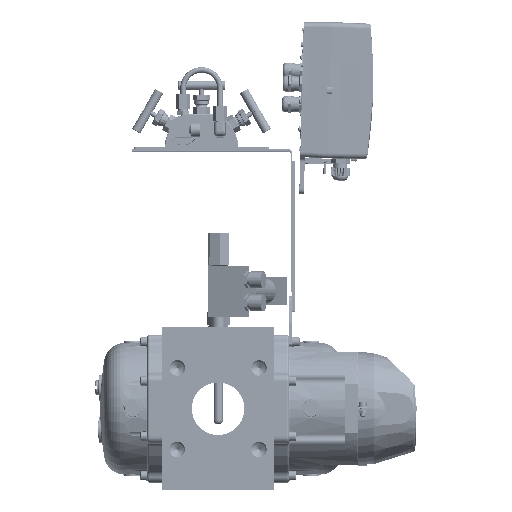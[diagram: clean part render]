
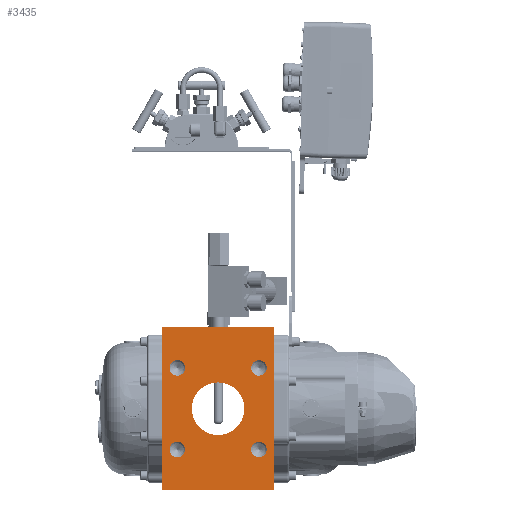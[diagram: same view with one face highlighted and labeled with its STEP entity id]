
A CAD part, front view. The second image highlights one B-rep face of the part: STEP entity #3435.
In plain terms, the highlighted planar face has unit normal (0, -1, 0).
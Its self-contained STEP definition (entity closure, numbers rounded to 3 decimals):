
#3435=ADVANCED_FACE('',(#281968,#281970,#281972,#281974,#281976,#281978),#281980,
.T.);
#281968=FACE_BOUND('',#281969,.T.);
#281969=EDGE_LOOP('',(#561775,#561776,#561777,#561778));
#281970=FACE_BOUND('',#281971,.T.);
#281971=EDGE_LOOP('',(#561779));
#281972=FACE_BOUND('',#281973,.T.);
#281973=EDGE_LOOP('',(#561780));
#281974=FACE_BOUND('',#281975,.T.);
#281975=EDGE_LOOP('',(#561781));
#281976=FACE_BOUND('',#281977,.T.);
#281977=EDGE_LOOP('',(#561782));
#281978=FACE_BOUND('',#281979,.T.);
#281979=EDGE_LOOP('',(#561783));
#281980=PLANE('',#281981);
#281981=AXIS2_PLACEMENT_3D('',#281982,#281983,#281984);
#281982=CARTESIAN_POINT('',(-60.5,-85.5,88.));
#281983=DIRECTION('',(0.,-1.,0.));
#281984=DIRECTION('',(0.,0.,-1.));
#561775=ORIENTED_EDGE('',*,*,#774985,.T.);
#561776=ORIENTED_EDGE('',*,*,#775059,.T.);
#561777=ORIENTED_EDGE('',*,*,#775026,.T.);
#561778=ORIENTED_EDGE('',*,*,#775060,.F.);
#561779=ORIENTED_EDGE('',*,*,#775061,.T.);
#561780=ORIENTED_EDGE('',*,*,#775062,.T.);
#561781=ORIENTED_EDGE('',*,*,#775063,.T.);
#561782=ORIENTED_EDGE('',*,*,#775064,.T.);
#561783=ORIENTED_EDGE('',*,*,#775065,.T.);
#774985=EDGE_CURVE('',#864598,#864596,#864599,.T.);
#775026=EDGE_CURVE('',#864677,#864675,#864678,.T.);
#775059=EDGE_CURVE('',#864596,#864677,#864729,.T.);
#775060=EDGE_CURVE('',#864598,#864675,#864730,.T.);
#775061=EDGE_CURVE('',#864731,#864731,#864732,.T.);
#775062=EDGE_CURVE('',#864733,#864733,#864734,.T.);
#775063=EDGE_CURVE('',#864735,#864735,#864736,.T.);
#775064=EDGE_CURVE('',#864737,#864737,#864738,.T.);
#775065=EDGE_CURVE('',#864739,#864739,#864740,.T.);
#864596=VERTEX_POINT('',#1014187);
#864598=VERTEX_POINT('',#1014191);
#864599=LINE('',#1014192,#1014193);
#864675=VERTEX_POINT('',#1014369);
#864677=VERTEX_POINT('',#1014373);
#864678=LINE('',#1014374,#1014375);
#864729=LINE('',#1014505,#1014506);
#864730=LINE('',#1014508,#1014509);
#864731=VERTEX_POINT('',#1014511);
#864732=CIRCLE('',#1014512,8.417);
#864733=VERTEX_POINT('',#1014516);
#864734=CIRCLE('',#1014517,8.417);
#864735=VERTEX_POINT('',#1014521);
#864736=CIRCLE('',#1014522,8.417);
#864737=VERTEX_POINT('',#1014526);
#864738=CIRCLE('',#1014527,28.5);
#864739=VERTEX_POINT('',#1014531);
#864740=CIRCLE('',#1014532,8.417);
#1014187=CARTESIAN_POINT('',(-60.5,-85.5,-88.));
#1014191=CARTESIAN_POINT('',(-60.5,-85.5,88.));
#1014192=CARTESIAN_POINT('',(-60.5,-85.5,88.));
#1014193=VECTOR('',#1014194,1.);
#1014194=DIRECTION('',(0.,0.,-1.));
#1014369=CARTESIAN_POINT('',(60.5,-85.5,88.));
#1014373=CARTESIAN_POINT('',(60.5,-85.5,-88.));
#1014374=CARTESIAN_POINT('',(60.5,-85.5,-88.));
#1014375=VECTOR('',#1014376,1.);
#1014376=DIRECTION('',(0.,0.,1.));
#1014505=CARTESIAN_POINT('',(-60.5,-85.5,-88.));
#1014506=VECTOR('',#1014507,1.);
#1014507=DIRECTION('',(1.,0.,0.));
#1014508=CARTESIAN_POINT('',(-60.5,-85.5,88.));
#1014509=VECTOR('',#1014510,1.);
#1014510=DIRECTION('',(1.,0.,0.));
#1014511=CARTESIAN_POINT('',(52.612,-85.5,44.194));
#1014512=AXIS2_PLACEMENT_3D('',#1014513,#1014514,#1014515);
#1014513=CARTESIAN_POINT('',(44.194,-85.5,44.194));
#1014514=DIRECTION('',(0.,1.,0.));
#1014515=DIRECTION('',(1.,0.,0.));
#1014516=CARTESIAN_POINT('',(52.612,-85.5,-44.194));
#1014517=AXIS2_PLACEMENT_3D('',#1014518,#1014519,#1014520);
#1014518=CARTESIAN_POINT('',(44.194,-85.5,-44.194));
#1014519=DIRECTION('',(0.,1.,0.));
#1014520=DIRECTION('',(1.,0.,0.));
#1014521=CARTESIAN_POINT('',(-35.777,-85.5,-44.194));
#1014522=AXIS2_PLACEMENT_3D('',#1014523,#1014524,#1014525);
#1014523=CARTESIAN_POINT('',(-44.194,-85.5,-44.194));
#1014524=DIRECTION('',(0.,1.,0.));
#1014525=DIRECTION('',(1.,0.,0.));
#1014526=CARTESIAN_POINT('',(-28.5,-85.5,0.));
#1014527=AXIS2_PLACEMENT_3D('',#1014528,#1014529,#1014530);
#1014528=CARTESIAN_POINT('',(0.,-85.5,0.));
#1014529=DIRECTION('',(0.,1.,0.));
#1014530=DIRECTION('',(-1.,0.,0.));
#1014531=CARTESIAN_POINT('',(-35.777,-85.5,44.194));
#1014532=AXIS2_PLACEMENT_3D('',#1014533,#1014534,#1014535);
#1014533=CARTESIAN_POINT('',(-44.194,-85.5,44.194));
#1014534=DIRECTION('',(0.,1.,0.));
#1014535=DIRECTION('',(1.,0.,0.));
